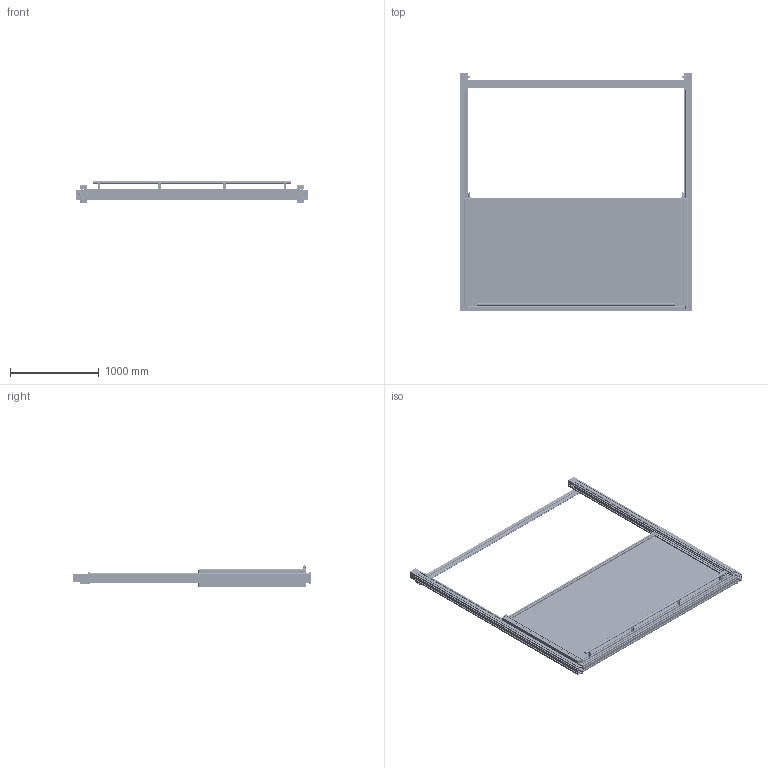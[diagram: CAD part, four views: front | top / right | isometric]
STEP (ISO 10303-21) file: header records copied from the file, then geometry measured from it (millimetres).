
FILE_DESCRIPTION((''),'2;1');
FILE_NAME('C:\Andys Backup Data\WEBSITE\DREAMWEAVER\MiniTec\Assembly_Examples\CounterWeighted_Doors\SP112013_CW_DOOR_HEAVY_SLIDES\SP112013 MAIN ASSEMBLY.stp','2013-11-22T14:04:06',('Admin'),(''),'Autodesk Inventor 2012','Autodesk Inventor 2012','');
FILE_SCHEMA(('AUTOMOTIVE_DESIGN { 1 0 10303 214 1 1 1 1 }'));
Length unit declared in the file: inch
Products named in the file (84): SP112013 MAIN ASSEMBLY; SP112013 BOTTOM HORI; SP112013 DOOR; SP112013 SLIDE; 28.0125 SLIDE LW90 32X180; 28.0004_1 END CAP LR RIGHT GRAY; 21.1666 M8x10 Stainless ELH; 28.0021 FIXING KIT LRK; 21.1029_1 T-SLOT BAR 90; 21.1303 M8X14 T-SLOT BAR SET SCREW; 28.0020_2 FIXING KIT WASHER; 28.0025 FIXING KIT LRK BUSHING; 28.0022 FIXING KIT LRE; 28.0023 FIXING KIT LRE BUSHING; 28.0024 M8X36; 28.0001 BALL BEARING LR 12; 28.0004_3 END CAP LR LEFT GRAY; SP112013 COV PROF LR; 21.1202  M8 x 20; SP112013 SLIDE 45X45; 21.0929 FIXING KIT FOR CHAIN SLIDE; 21.1249 M10 X 25; 21.1204  M8 x 25; 21.1351 M8 SQUARE NUT; 21.0925 CHAIN CLAMPING DEVICE S; 29.0308 CONNECTING LINK 08B; 29.0308 CONNECTING LINK MALE; 29.0308 CONNECTING LINK FEMALE; 29.0308 CONNECTING LINK CLIP; SP112013 DOOR PANEL SECTION; SP112013 DOOR HORI; SP112013 DOOR VERT; SP112013 PANEL DOOR; 21.1349 ANGLE 45 GD-Z; 21.1127 WASHER M8; SP112013 HANDLE ASSY; SP112013 HANDLE PROFILE 32; SP112013 HANDLE SUPP; SP112013 HANDLE 30X30; 21.0818 POWER-LOCK SF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
Assembly tree (166 placements, depth 9):
  SP112013 MAIN ASSEMBLY
    SP112013 BOTTOM HORI
    SP112013 DOOR
      SP112013 SLIDE  x2
        28.0125 SLIDE LW90 32X180
        28.0004_1 END CAP LR RIGHT GRAY
          28.0004_1 END CAP LR RIGHT GRAY
          21.1666 M8x10 Stainless ELH
        28.0021 FIXING KIT LRK
          21.1029_1 T-SLOT BAR 90
          21.1303 M8X14 T-SLOT BAR SET SCREW
          28.0020_2 FIXING KIT WASHER
          28.0025 FIXING KIT LRK BUSHING
        28.0022 FIXING KIT LRE
          21.1029_1 T-SLOT BAR 90
          21.1303 M8X14 T-SLOT BAR SET SCREW
          28.0020_2 FIXING KIT WASHER
          28.0023 FIXING KIT LRE BUSHING
          28.0024 M8X36
        28.0001 BALL BEARING LR 12
        28.0004_3 END CAP LR LEFT GRAY
          28.0004_3 END CAP LR LEFT GRAY
          21.1666 M8x10 Stainless ELH
        SP112013 COV PROF LR
        21.1202  M8 x 20
        SP112013 SLIDE 45X45
        21.0929 FIXING KIT FOR CHAIN SLIDE
          21.0929 FIXING KIT FOR CHAIN SLIDE
          21.1249 M10 X 25
          21.1204  M8 x 25  x2
          21.1351 M8 SQUARE NUT  x2
          21.0925 CHAIN CLAMPING DEVICE S
          29.0308 CONNECTING LINK 08B
            29.0308 CONNECTING LINK MALE
            29.0308 CONNECTING LINK FEMALE
            29.0308 CONNECTING LINK CLIP
      SP112013 DOOR PANEL SECTION
        SP112013 DOOR HORI  x2
        SP112013 DOOR VERT  x2
        SP112013 PANEL DOOR
        21.1349 ANGLE 45 GD-Z  x8
          21.1349 ANGLE 45 GD-Z
          21.1202  M8 x 20
          21.1127 WASHER M8
          21.1351 M8 SQUARE NUT
        SP112013 HANDLE ASSY
          SP112013 HANDLE PROFILE 32
          SP112013 HANDLE SUPP  x4
            SP112013 HANDLE 30X30
            21.0818 POWER-LOCK SF
              21.1492 POWER-LOCK SF TORX SCREW
              21.1393_1 POWER-LOCK BODY WITH SS
                21.1393_2 POWER-LOCK BODY
                21.1301 M8X16 SET SCREW FLAT DIN 913
            21.0953 ADAPTOR 30X30-G32
              21.0953 ADAPTOR 30X30-G32
              21.0818 POWER-LOCK SF
                21.1492 POWER-LOCK SF TORX SCREW
                21.1393_1 POWER-LOCK BODY WITH SS
                  21.1393_2 POWER-LOCK BODY
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Bounding box: 2618.4 x 2686.68 x 242.8 mm (x, y, z)
Volume: 48713325.1 mm3; surface area: 27585473.6 mm2
Topology: 337 solids, 341 shells, 11104 faces, 28548 edges, 18306 vertices
Faces by surface type: plane 6669, cylinder 2783, cone 1004, torus 290, sphere 178, bspline 172, revolution 8
Full cylindrical faces by diameter (mm): 1.7 x8, 2.5 x8, 4.45 x46, 6 x16, 6.35 x64, 6.6 x8, 6.647 x18, 7.5 x28, 7.71 x16, 8 x154, 8.1 x12, 8.2 x2, 8.376 x10, 8.4 x24, 8.5 x10, 8.51 x8, 9 x8, 9.5 x8, 10 x12, 10.5 x4, 11 x10, 11.7 x8, 11.81 x12, 12 x34, 13 x78, 13.5 x12, 14 x4, 14.3 x4, 15 x12, 15.8 x16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
Entity records: 97965 total; most frequent: CARTESIAN_POINT 20507, DIRECTION 15768, ORIENTED_EDGE 15220, EDGE_CURVE 7610, AXIS2_PLACEMENT_3D 5304, VECTOR 5159, LINE 5159, VERTEX_POINT 5098
